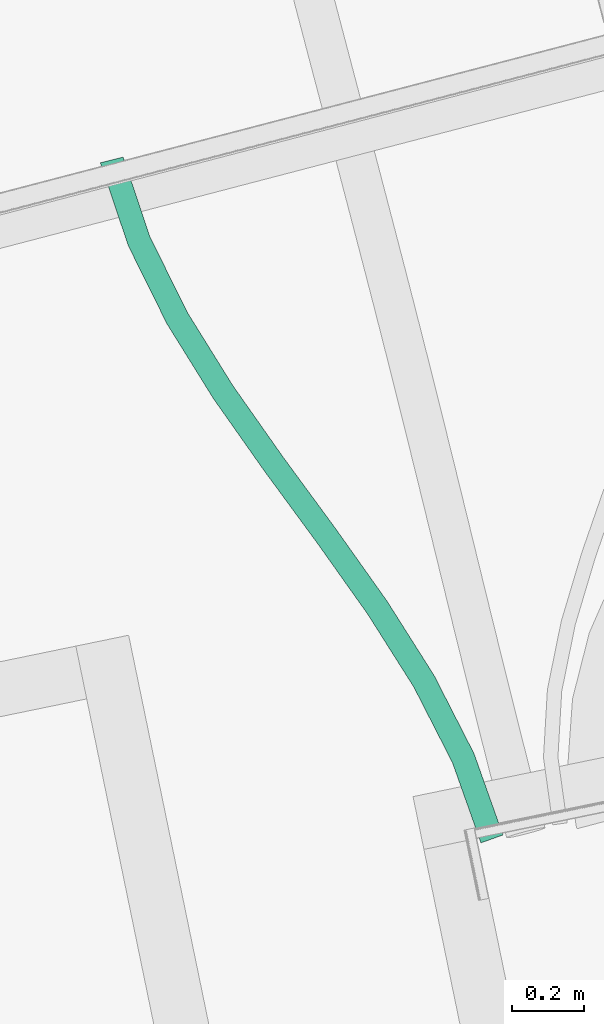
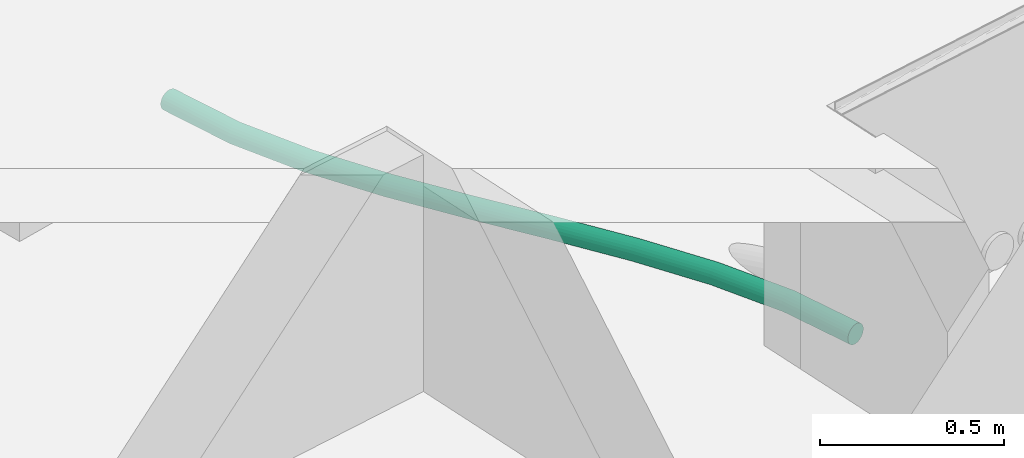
# One storey, part 21 of 29: 1 flow segment.
"""IFC2X3 building model written with IfcOpenShell, lengths in centimetres."""

from ifc_helpers import new_model, entity, si_unit, converted_unit, derived_unit, direction, frame, origin, place, context, subcontext, project, spatial, faceted_brep, type_object, element, save


model = new_model("IFC2X3")

# Units and contexts
model_context = context("Model", 3, precision=0.001, world=origin(), true_north=direction((6.12303176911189e-17, 1.0)))
body_context = subcontext(model_context, "Body", "Model", "MODEL_VIEW")
ifc_project = project(units=[si_unit("LENGTHUNIT", "METRE", prefix="CENTI"), si_unit("AREAUNIT", "SQUARE_METRE"), si_unit("VOLUMEUNIT", "CUBIC_METRE"), converted_unit("PLANEANGLEUNIT", "DEGREE", entity("IfcRatioMeasure", 0.0174532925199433), si_unit("PLANEANGLEUNIT", "RADIAN"), dimensions=[0, 0, 0, 0, 0, 0, 0]), si_unit("MASSUNIT", "GRAM", prefix="KILO"), derived_unit("MASSDENSITYUNIT", [(si_unit("MASSUNIT", "GRAM", prefix="KILO"), 1), (si_unit("LENGTHUNIT", "METRE"), -3)]), si_unit("TIMEUNIT", "SECOND"), si_unit("FREQUENCYUNIT", "HERTZ"), si_unit("THERMODYNAMICTEMPERATUREUNIT", "DEGREE_CELSIUS"), derived_unit("THERMALTRANSMITTANCEUNIT", [(si_unit("MASSUNIT", "GRAM", prefix="KILO"), 1), (si_unit("THERMODYNAMICTEMPERATUREUNIT", "KELVIN"), -1), (si_unit("TIMEUNIT", "SECOND"), -3)]), derived_unit("VOLUMETRICFLOWRATEUNIT", [(si_unit("LENGTHUNIT", "METRE"), 3), (si_unit("TIMEUNIT", "SECOND"), -1)]), si_unit("ELECTRICCURRENTUNIT", "AMPERE"), si_unit("ELECTRICVOLTAGEUNIT", "VOLT"), si_unit("POWERUNIT", "WATT"), si_unit("FORCEUNIT", "NEWTON"), si_unit("ILLUMINANCEUNIT", "LUX"), si_unit("LUMINOUSFLUXUNIT", "LUMEN"), si_unit("LUMINOUSINTENSITYUNIT", "CANDELA"), derived_unit("USERDEFINED", [(si_unit("MASSUNIT", "GRAM", prefix="KILO"), -1), (si_unit("LENGTHUNIT", "METRE"), -2), (si_unit("TIMEUNIT", "SECOND"), 3), (si_unit("LUMINOUSFLUXUNIT", "LUMEN"), 1)]), derived_unit("LINEARVELOCITYUNIT", [(si_unit("LENGTHUNIT", "METRE"), 1), (si_unit("TIMEUNIT", "SECOND"), -1)]), si_unit("PRESSUREUNIT", "PASCAL"), derived_unit("USERDEFINED", [(si_unit("LENGTHUNIT", "METRE"), -2), (si_unit("MASSUNIT", "GRAM", prefix="KILO"), 1), (si_unit("TIMEUNIT", "SECOND"), -2)])], contexts=[model_context])

# Site, building, storey
site_placement = place(None, origin())
site = spatial("IfcSite", under=ifc_project, at=site_placement, Name="Default", CompositionType="ELEMENT")
building_placement = place(site_placement, origin())
building = spatial("IfcBuilding", under=site, at=building_placement, Name="CAGE 03", CompositionType="ELEMENT")
storey_placement = place(building_placement, frame((0.0, 0.0, -34.0)))
storey = spatial("IfcBuildingStorey", under=building, at=storey_placement, Name="+3.66", CompositionType="ELEMENT", Elevation=-34.0000000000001)

# Flow segment
pipe_segment_type = type_object("IfcPipeSegmentType", Name="Canalisation souple arrondie:Flex - Round", PredefinedType="FLEXIBLESEGMENT")
flow_segment_placement = place(storey_placement, frame((11449.948982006, 3535.49938650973, -80.1595294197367)))
element("IfcFlowSegment", 1, at=flow_segment_placement, inside=storey, type_object=pipe_segment_type, Name="Canalisation souple arrondie:Flex - Round", ObjectType="Canalisation souple arrondie:Flex - Round", context=body_context, shape_type="Brep", body=[
    faceted_brep([(1.08326639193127, 189.752478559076, 1.11143018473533), (0.582062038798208, 189.627772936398, 1.7845272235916), (0.266991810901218, 189.549379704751, 2.5683653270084), (0.15952722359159, 189.522641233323, 3.4095272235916), (0.266991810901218, 189.549379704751, 4.25068912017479), (0.582062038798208, 189.627772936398, 5.03452722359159), (1.08326639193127, 189.752478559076, 5.70762426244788), (1.73644862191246, 189.914998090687, 6.22410978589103), (2.49709543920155, 190.104256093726, 6.54878615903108), (3.3133700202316, 190.307354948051, 6.65952722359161), (4.12964460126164, 190.510453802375, 6.54878615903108), (4.89029141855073, 190.699711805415, 6.22410978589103), (5.54347364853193, 190.862231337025, 5.70762426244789), (6.04467800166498, 190.986936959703, 5.03452722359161), (6.35974822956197, 191.06533019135, 4.2506891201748), (6.4672128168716, 191.092068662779, 3.40952722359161), (6.35974822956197, 191.06533019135, 2.56836532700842), (6.04467800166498, 190.986936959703, 1.78452722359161), (5.54347364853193, 190.862231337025, 1.11143018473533), (4.89029141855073, 190.699711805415, 0.594944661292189), (4.12964460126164, 190.510453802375, 0.270268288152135), (3.3133700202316, 190.307354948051, 0.159527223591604), (2.49709543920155, 190.104256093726, 0.270268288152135), (1.73644862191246, 189.914998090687, 0.594944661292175), (6.05583513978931, 190.942095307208, 1.78452722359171), (5.55965895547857, 190.797180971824, 1.11143018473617), (6.36774452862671, 191.033192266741, 2.56836532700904), (6.47413101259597, 191.064263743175, 3.40952722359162), (4.16001368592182, 190.388397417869, 0.27026828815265), (3.35192811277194, 190.152386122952, 0.159527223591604), (4.91302956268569, 190.608324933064, 0.594944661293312), (2.5438425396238, 189.916374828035, 0.270268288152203), (1.79082666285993, 189.69644731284, 0.594944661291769), (1.14419727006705, 189.50759127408, 1.11143018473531), (0.648021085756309, 189.362676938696, 1.78452722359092), (0.336111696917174, 189.271579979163, 2.56836532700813), (0.229725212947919, 189.240508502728, 3.4095272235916), (0.336111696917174, 189.271579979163, 4.25068912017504), (0.648021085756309, 189.362676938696, 5.03452722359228), (1.14419727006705, 189.50759127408, 5.70762426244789), (1.79082666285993, 189.69644731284, 6.22410978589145), (2.5438425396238, 189.916374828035, 6.54878615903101), (3.35192811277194, 190.152386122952, 6.65952722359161), (4.16001368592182, 190.388397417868, 6.54878615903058), (4.91302956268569, 190.608324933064, 6.22410978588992), (5.55965895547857, 190.797180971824, 5.70762426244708), (6.36774452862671, 191.033192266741, 4.25068912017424), (6.05583513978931, 190.942095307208, 5.03452722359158), (106.2002484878, 0.196599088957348, 2.56836532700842), (106.506191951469, 0.305288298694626, 1.78452722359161), (106.992877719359, 0.47818786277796, 1.11143018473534), (107.627138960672, 0.703514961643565, 0.594944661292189), (108.365751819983, 0.965913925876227, 0.270268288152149), (109.158381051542, 1.24750269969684, 0.159527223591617), (109.9510102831, 1.52909147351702, 0.270268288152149), (110.689623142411, 1.79149043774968, 0.594944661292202), (111.323884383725, 2.01681753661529, 1.11143018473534), (111.810570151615, 2.18971710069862, 1.78452722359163), (112.116513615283, 2.2984063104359, 2.56836532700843), (112.220865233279, 2.33547817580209, 3.40952722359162), (112.116513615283, 2.2984063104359, 4.25068912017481), (111.810570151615, 2.18971710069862, 5.03452722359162), (111.323884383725, 2.01681753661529, 5.70762426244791), (110.689623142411, 1.79149043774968, 6.22410978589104), (109.9510102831, 1.52909147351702, 6.5487861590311), (109.158381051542, 1.24750269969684, 6.65952722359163), (108.365751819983, 0.965913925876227, 6.5487861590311), (107.627138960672, 0.703514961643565, 6.22410978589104), (106.992877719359, 0.47818786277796, 5.70762426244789), (106.506191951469, 0.305288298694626, 5.03452722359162), (106.2002484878, 0.196599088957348, 4.2506891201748), (106.095896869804, 0.159527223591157, 3.40952722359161), (13.8245669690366, 168.862923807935, 2.56836532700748), (13.5238490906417, 168.738552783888, 1.78452722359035), (13.92713623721, 168.905344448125, 3.40952722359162), (13.0454760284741, 168.540707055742, 1.11143018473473), (11.6960509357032, 167.982611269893, 0.270268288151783), (10.9169599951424, 167.660394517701, 0.159527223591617), (12.4220481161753, 168.282869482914, 0.594944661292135), (10.1378690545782, 167.338177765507, 0.270268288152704), (9.41187187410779, 167.037919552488, 0.594944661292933), (8.78844396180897, 166.78008197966, 1.11143018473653), (8.31007089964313, 166.582236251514, 1.78452722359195), (8.0093530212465, 166.457865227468, 2.56836532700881), (7.90678375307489, 166.415444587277, 3.40952722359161), (8.0093530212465, 166.457865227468, 4.25068912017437), (8.31007089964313, 166.582236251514, 5.03452722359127), (8.78844396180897, 166.78008197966, 5.70762426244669), (9.41187187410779, 167.037919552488, 6.2241097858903), (10.1378690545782, 167.338177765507, 6.54878615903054), (10.9169599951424, 167.660394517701, 6.65952722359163), (11.6960509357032, 167.982611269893, 6.54878615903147), (12.4220481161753, 168.282869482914, 6.22410978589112), (13.0454760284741, 168.540707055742, 5.70762426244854), (13.52384909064, 168.738552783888, 5.03452722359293), (13.8245669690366, 168.862923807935, 4.2506891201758), (24.2831759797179, 147.746124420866, 2.56836532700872), (23.9991648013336, 147.588021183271, 1.78452722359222), (24.3800469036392, 147.800050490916, 3.40952722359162), (23.5473682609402, 147.336515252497, 1.11143018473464), (22.27291190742, 146.627051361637, 0.270268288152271), (21.5371041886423, 146.217442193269, 0.159527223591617), (22.9585755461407, 147.008746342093, 0.594944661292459), (20.8012964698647, 145.807833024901, 0.270268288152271), (20.1156328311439, 145.426138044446, 0.594944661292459), (19.5268401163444, 145.098369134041, 1.11143018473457), (19.0750435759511, 144.846863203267, 1.78452722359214), (18.7910323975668, 144.688759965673, 2.56836532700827), (18.6941614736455, 144.634833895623, 3.40952722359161), (18.7910323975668, 144.688759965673, 4.25068912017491), (19.0750435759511, 144.846863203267, 5.03452722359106), (19.5268401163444, 145.098369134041, 5.70762426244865), (20.1156328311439, 145.426138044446, 6.22410978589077), (20.8012964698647, 145.807833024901, 6.54878615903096), (21.5371041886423, 146.217442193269, 6.65952722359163), (22.27291190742, 146.627051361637, 6.54878615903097), (22.9585755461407, 147.008746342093, 6.2241097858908), (23.5473682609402, 147.336515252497, 5.70762426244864), (23.9991648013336, 147.588021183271, 5.03452722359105), (24.2831759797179, 147.746124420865, 4.250689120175), (36.9453932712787, 127.371378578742, 2.56836532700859), (36.6745233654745, 127.1921297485, 1.78452722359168), (37.0377819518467, 127.432517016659, 3.40952722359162), (36.2436315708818, 126.906986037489, 1.11143018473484), (35.0281446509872, 126.102634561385, 0.270268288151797), (34.326382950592, 125.638242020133, 0.159527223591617), (35.6820824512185, 126.535379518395, 0.594944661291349), (33.6246212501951, 125.17384947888, 0.270268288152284), (32.9706834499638, 124.74110452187, 0.594944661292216), (32.4091343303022, 124.369498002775, 1.11143018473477), (31.9782425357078, 124.084354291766, 1.78452722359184), (31.7073726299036, 123.905105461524, 2.56836532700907), (31.6149839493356, 123.843967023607, 3.40952722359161), (31.7073726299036, 123.905105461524, 4.25068912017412), (31.9782425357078, 124.084354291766, 5.03452722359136), (32.4091343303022, 124.369498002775, 5.70762426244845), (32.9706834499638, 124.74110452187, 6.22410978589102), (33.6246212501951, 125.17384947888, 6.54878615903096), (34.326382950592, 125.638242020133, 6.65952722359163), (35.0281446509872, 126.102634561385, 6.54878615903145), (35.6820824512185, 126.535379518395, 6.22410978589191), (36.2436315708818, 126.906986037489, 5.70762426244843), (36.6745233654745, 127.1921297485, 5.03452722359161), (36.9453932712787, 127.371378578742, 4.25068912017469), (50.9867416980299, 107.41466016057, 2.56836532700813), (50.7230748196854, 107.225173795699, 1.78452722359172), (51.076673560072, 107.479290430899, 3.40952722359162), (50.303641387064, 106.923744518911, 1.11143018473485), (49.1204769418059, 106.073453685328, 0.270268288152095), (48.43737663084, 105.58253804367, 0.159527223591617), (49.757025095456, 106.530914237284, 0.594944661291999), (47.7542763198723, 105.091622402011, 0.270268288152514), (47.1177281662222, 104.634161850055, 0.594944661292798), (46.5711118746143, 104.241331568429, 1.11143018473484), (46.1516784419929, 103.939902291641, 1.78452722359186), (45.8880115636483, 103.750415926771, 2.5683653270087), (45.7980797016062, 103.685785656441, 3.40952722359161), (45.8880115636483, 103.750415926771, 4.25068912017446), (46.1516784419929, 103.939902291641, 5.03452722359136), (46.5711118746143, 104.241331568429, 5.70762426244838), (47.1177281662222, 104.634161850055, 6.22410978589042), (47.7542763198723, 105.091622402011, 6.54878615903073), (48.43737663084, 105.58253804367, 6.65952722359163), (49.1204769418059, 106.073453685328, 6.54878615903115), (49.757025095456, 106.530914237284, 6.22410978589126), (50.303641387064, 106.923744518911, 5.70762426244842), (50.7230748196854, 107.225173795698, 5.03452722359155), (50.9867416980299, 107.41466016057, 4.25068912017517), (65.6581320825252, 87.6120456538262, 3.40952722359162), (65.5683307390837, 87.5472375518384, 2.56836532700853), (65.3050465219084, 87.3572298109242, 1.78452722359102), (64.8862218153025, 87.0549711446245, 1.11143018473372), (64.3403988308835, 86.6610599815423, 0.594944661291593), (63.7047745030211, 86.2023407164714, 0.270268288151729), (63.0226655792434, 85.7100743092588, 0.159527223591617), (62.340556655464, 85.2178079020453, 0.270268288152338), (61.7049323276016, 84.7590886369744, 0.594944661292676), (61.1591093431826, 84.3651774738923, 1.11143018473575), (60.7402846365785, 84.0629188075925, 1.78452722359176), (60.4770004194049, 83.8729110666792, 2.56836532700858), (60.3871990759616, 83.8081029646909, 3.40952722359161), (60.4770004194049, 83.8729110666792, 4.2506891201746), (60.7402846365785, 84.0629188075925, 5.03452722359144), (61.1591093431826, 84.3651774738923, 5.70762426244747), (62.340556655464, 85.2178079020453, 6.54878615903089), (63.0226655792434, 85.7100743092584, 6.65952722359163), (61.7049323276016, 84.7590886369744, 6.22410978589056), (63.7047745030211, 86.2023407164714, 6.54878615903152), (64.3403988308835, 86.6610599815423, 6.22410978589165), (64.8862218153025, 87.0549711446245, 5.70762426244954), (65.3050465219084, 87.3572298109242, 5.03452722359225), (65.5683307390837, 87.547237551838, 4.25068912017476), (79.9350787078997, 67.4912675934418, 3.40952722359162), (79.843069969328, 67.4295704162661, 2.56836532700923), (79.5733139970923, 67.2486834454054, 1.78452722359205), (79.1441942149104, 66.9609338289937, 1.11143018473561), (78.5849544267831, 66.5859312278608, 0.594944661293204), (77.9337059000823, 66.1492314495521, 0.27026828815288), (77.234830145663, 65.680594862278, 0.159527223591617), (76.535954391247, 65.211958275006, 0.270268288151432), (75.8847058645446, 64.7752584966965, 0.59494466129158), (75.3254660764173, 64.4002558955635, 1.11143018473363), (74.8963462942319, 64.1125062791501, 1.78452722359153), (74.6265903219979, 63.931619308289, 2.56836532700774), (74.5345815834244, 63.8699221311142, 3.40952722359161), (74.6265903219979, 63.931619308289, 4.25068912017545), (74.8963462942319, 64.1125062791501, 5.03452722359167), (75.3254660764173, 64.4002558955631, 5.70762426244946), (76.535954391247, 65.211958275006, 6.5487861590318), (77.234830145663, 65.680594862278, 6.65952722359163), (75.8847058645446, 64.7752584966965, 6.22410978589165), (77.9337059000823, 66.1492314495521, 6.54878615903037), (78.5849544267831, 66.5859312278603, 6.22410978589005), (79.1441942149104, 66.9609338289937, 5.70762426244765), (79.5733139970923, 67.2486834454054, 5.03452722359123), (79.843069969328, 67.4295704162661, 4.25068912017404), (93.0523119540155, 46.7660484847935, 3.40952722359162), (92.9560230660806, 46.711113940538, 2.56836532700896), (92.6737183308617, 46.5500540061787, 1.78452722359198), (92.2246363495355, 46.2938446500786, 1.11143018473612), (91.6393813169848, 45.9599461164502, 0.594944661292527), (90.9578373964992, 45.5711130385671, 0.270268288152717), (90.2264506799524, 45.1538437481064, 0.159527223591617), (89.4950639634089, 44.7365744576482, 0.270268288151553), (88.8135200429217, 44.3477413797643, 0.594944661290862), (88.2282650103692, 44.0138428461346, 1.11143018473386), (87.7791830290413, 43.7576334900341, 1.78452722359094), (87.4968782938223, 43.5965735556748, 2.5683653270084), (87.4005894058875, 43.5416390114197, 3.40952722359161), (87.4968782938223, 43.5965735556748, 4.25068912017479), (87.7791830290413, 43.7576334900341, 5.03452722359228), (88.2282650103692, 44.0138428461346, 5.70762426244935), (89.4950639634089, 44.7365744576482, 6.54878615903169), (90.2264506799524, 45.1538437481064, 6.65952722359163), (88.8135200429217, 44.3477413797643, 6.22410978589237), (90.9578373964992, 45.5711130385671, 6.54878615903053), (91.6393813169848, 45.9599461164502, 6.22410978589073), (92.2246363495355, 46.2938446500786, 5.70762426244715), (92.6737183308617, 46.5500540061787, 5.03452722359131), (92.9560230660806, 46.711113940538, 4.25068912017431), (104.141064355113, 25.078879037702, 3.40952722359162), (104.039149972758, 25.0349467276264, 2.56836532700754), (103.740352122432, 24.9061437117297, 1.78452722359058), (103.265033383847, 24.7012477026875, 1.11143018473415), (102.645585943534, 24.4342220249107, 0.594944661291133), (101.924224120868, 24.1232640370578, 0.270268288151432), (101.15010753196, 23.7895650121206, 0.159527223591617), (100.375990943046, 23.4558659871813, 0.270268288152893), (99.6546291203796, 23.1449079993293, 0.594944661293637), (99.0351816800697, 22.8778823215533, 1.11143018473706), (98.559862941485, 22.6729863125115, 1.78452722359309), (98.2610650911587, 22.5441832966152, 2.56836532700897), (98.1591507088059, 22.5002509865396, 3.40952722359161), (98.2610650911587, 22.5441832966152, 4.2506891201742), (98.559862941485, 22.6729863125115, 5.03452722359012), (99.0351816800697, 22.8778823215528, 5.70762426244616), (100.375990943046, 23.4558659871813, 6.54878615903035), (101.15010753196, 23.7895650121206, 6.65952722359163), (99.6546291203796, 23.1449079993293, 6.22410978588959), (101.924224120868, 24.1232640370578, 6.54878615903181), (102.645585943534, 24.4342220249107, 6.22410978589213), (103.265033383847, 24.7012477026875, 5.70762426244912), (103.740352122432, 24.9061437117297, 5.0345272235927), (104.039149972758, 25.0349467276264, 4.25068912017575)], [[[0, 1, 2, 3, 4, 5, 6, 7, 8, 9, 10, 11, 12, 13, 14, 15, 16, 17, 18, 19, 20, 21, 22, 23]], [[17, 24, 25, 18]], [[26, 24, 17, 16]], [[15, 27, 26, 16]], [[28, 29, 21, 20]], [[30, 28, 20, 19]], [[25, 30, 19, 18]], [[23, 22, 31, 32]], [[0, 23, 32, 33]], [[21, 29, 31, 22]], [[2, 1, 34, 35]], [[3, 2, 35, 36]], [[33, 34, 1, 0]], [[3, 36, 37, 4]], [[4, 37, 38, 5]], [[5, 38, 39, 6]], [[7, 40, 41, 8]], [[8, 41, 42, 9]], [[6, 39, 40, 7]], [[43, 44, 11, 10]], [[42, 43, 10, 9]], [[11, 44, 45, 12]], [[46, 27, 15, 14]], [[47, 46, 14, 13]], [[12, 45, 47, 13]], [[48, 49, 50, 51, 52, 53, 54, 55, 56, 57, 58, 59, 60, 61, 62, 63, 64, 65, 66, 67, 68, 69, 70, 71]], [[72, 73, 24, 26]], [[74, 72, 26, 27]], [[25, 24, 73, 75]], [[76, 77, 29, 28]], [[78, 76, 28, 30]], [[75, 78, 30, 25]], [[31, 29, 77, 79]], [[32, 31, 79, 80]], [[33, 32, 80, 81]], [[35, 34, 82, 83]], [[36, 35, 83, 84]], [[81, 82, 34, 33]], [[36, 84, 85, 37]], [[37, 85, 86, 38]], [[38, 86, 87, 39]], [[39, 87, 88, 40]], [[40, 88, 89, 41]], [[90, 42, 41, 89]], [[91, 92, 44, 43]], [[90, 91, 43, 42]], [[93, 45, 44, 92]], [[94, 95, 46, 47]], [[94, 47, 45, 93]], [[74, 27, 46, 95]], [[96, 97, 73, 72]], [[98, 96, 72, 74]], [[99, 75, 73, 97]], [[100, 101, 77, 76]], [[102, 100, 76, 78]], [[102, 78, 75, 99]], [[77, 101, 103, 79]], [[79, 103, 104, 80]], [[105, 81, 80, 104]], [[82, 106, 107, 83]], [[83, 107, 108, 84]], [[106, 82, 81, 105]], [[85, 84, 108, 109]], [[86, 85, 109, 110]], [[110, 111, 87, 86]], [[88, 87, 111, 112]], [[89, 88, 112, 113]], [[90, 89, 113, 114]], [[115, 116, 92, 91]], [[114, 115, 91, 90]], [[93, 92, 116, 117]], [[118, 119, 95, 94]], [[117, 118, 94, 93]], [[74, 95, 119, 98]], [[120, 121, 97, 96]], [[122, 120, 96, 98]], [[123, 99, 97, 121]], [[124, 125, 101, 100]], [[126, 124, 100, 102]], [[126, 102, 99, 123]], [[101, 125, 127, 103]], [[103, 127, 128, 104]], [[129, 105, 104, 128]], [[106, 130, 131, 107]], [[107, 131, 132, 108]], [[130, 106, 105, 129]], [[109, 108, 132, 133]], [[110, 109, 133, 134]], [[134, 135, 111, 110]], [[112, 111, 135, 136]], [[113, 112, 136, 137]], [[114, 113, 137, 138]], [[139, 140, 116, 115]], [[138, 139, 115, 114]], [[117, 116, 140, 141]], [[142, 143, 119, 118]], [[141, 142, 118, 117]], [[98, 119, 143, 122]], [[144, 145, 121, 120]], [[146, 144, 120, 122]], [[147, 123, 121, 145]], [[148, 149, 125, 124]], [[150, 148, 124, 126]], [[150, 126, 123, 147]], [[125, 149, 151, 127]], [[127, 151, 152, 128]], [[153, 129, 128, 152]], [[130, 154, 155, 131]], [[131, 155, 156, 132]], [[154, 130, 129, 153]], [[133, 132, 156, 157]], [[134, 133, 157, 158]], [[158, 159, 135, 134]], [[136, 135, 159, 160]], [[137, 136, 160, 161]], [[138, 137, 161, 162]], [[163, 164, 140, 139]], [[162, 163, 139, 138]], [[141, 140, 164, 165]], [[166, 167, 143, 142]], [[165, 166, 142, 141]], [[122, 143, 167, 146]], [[146, 168, 169, 144]], [[144, 169, 170, 145]], [[171, 147, 145, 170]], [[147, 171, 172, 150]], [[150, 172, 173, 148]], [[174, 149, 148, 173]], [[175, 176, 152, 151]], [[174, 175, 151, 149]], [[177, 153, 152, 176]], [[178, 179, 155, 154]], [[178, 154, 153, 177]], [[180, 156, 155, 179]], [[181, 182, 158, 157]], [[180, 181, 157, 156]], [[182, 183, 159, 158]], [[184, 185, 162, 161]], [[186, 184, 161, 160]], [[183, 186, 160, 159]], [[163, 162, 185, 187]], [[164, 163, 187, 188]], [[165, 164, 188, 189]], [[167, 166, 190, 191]], [[146, 167, 191, 168]], [[189, 190, 166, 165]], [[168, 192, 193, 169]], [[169, 193, 194, 170]], [[170, 194, 195, 171]], [[171, 195, 196, 172]], [[172, 196, 197, 173]], [[198, 174, 173, 197]], [[199, 200, 176, 175]], [[198, 199, 175, 174]], [[201, 177, 176, 200]], [[202, 203, 179, 178]], [[202, 178, 177, 201]], [[204, 180, 179, 203]], [[205, 206, 182, 181]], [[204, 205, 181, 180]], [[183, 182, 206, 207]], [[208, 209, 185, 184]], [[210, 208, 184, 186]], [[207, 210, 186, 183]], [[187, 185, 209, 211]], [[188, 187, 211, 212]], [[189, 188, 212, 213]], [[191, 190, 214, 215]], [[168, 191, 215, 192]], [[213, 214, 190, 189]], [[192, 216, 217, 193]], [[193, 217, 218, 194]], [[194, 218, 219, 195]], [[195, 219, 220, 196]], [[196, 220, 221, 197]], [[222, 198, 197, 221]], [[223, 224, 200, 199]], [[222, 223, 199, 198]], [[225, 201, 200, 224]], [[226, 227, 203, 202]], [[226, 202, 201, 225]], [[228, 204, 203, 227]], [[229, 230, 206, 205]], [[228, 229, 205, 204]], [[207, 206, 230, 231]], [[232, 233, 209, 208]], [[234, 232, 208, 210]], [[231, 234, 210, 207]], [[211, 209, 233, 235]], [[212, 211, 235, 236]], [[213, 212, 236, 237]], [[215, 214, 238, 239]], [[192, 215, 239, 216]], [[237, 238, 214, 213]], [[216, 240, 241, 217]], [[217, 241, 242, 218]], [[218, 242, 243, 219]], [[219, 243, 244, 220]], [[220, 244, 245, 221]], [[246, 222, 221, 245]], [[247, 248, 224, 223]], [[246, 247, 223, 222]], [[249, 225, 224, 248]], [[250, 251, 227, 226]], [[250, 226, 225, 249]], [[252, 228, 227, 251]], [[253, 254, 230, 229]], [[252, 253, 229, 228]], [[231, 230, 254, 255]], [[256, 257, 233, 232]], [[258, 256, 232, 234]], [[255, 258, 234, 231]], [[235, 233, 257, 259]], [[236, 235, 259, 260]], [[237, 236, 260, 261]], [[239, 238, 262, 263]], [[216, 239, 263, 240]], [[261, 262, 238, 237]], [[58, 57, 242, 241]], [[59, 58, 241, 240]], [[57, 56, 243, 242]], [[245, 244, 55, 54]], [[246, 245, 54, 53]], [[56, 55, 244, 243]], [[247, 246, 53, 52]], [[248, 247, 52, 51]], [[249, 248, 51, 50]], [[251, 250, 49, 48]], [[252, 251, 48, 71]], [[50, 49, 250, 249]], [[252, 71, 70, 253]], [[253, 70, 69, 254]], [[68, 255, 254, 69]], [[258, 67, 66, 256]], [[256, 66, 65, 257]], [[67, 258, 255, 68]], [[257, 65, 64, 259]], [[259, 64, 63, 260]], [[62, 261, 260, 63]], [[262, 61, 60, 263]], [[263, 60, 59, 240]], [[61, 262, 261, 62]]]),
])

save(model, "model.ifc")
